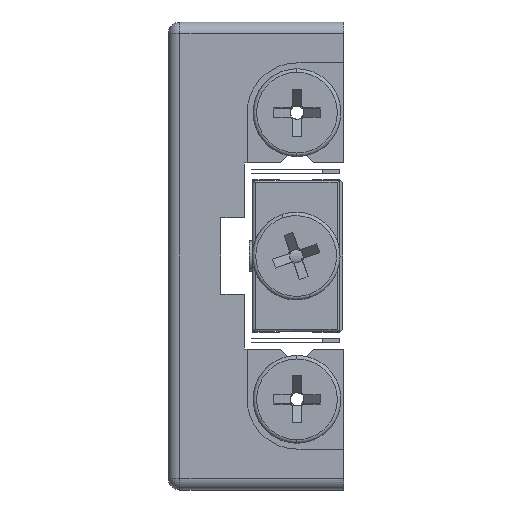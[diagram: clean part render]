
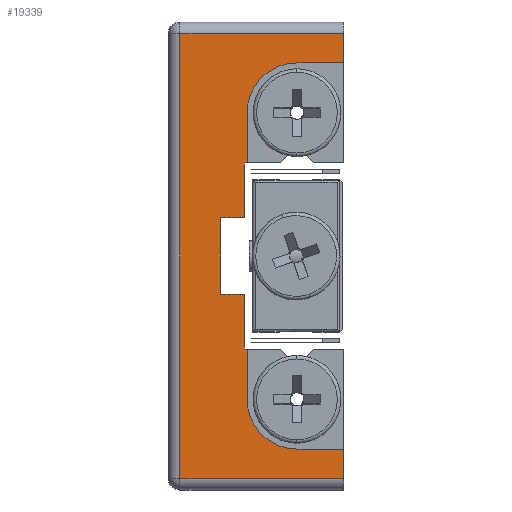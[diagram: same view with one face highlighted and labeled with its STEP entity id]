
A CAD part, left-side view. The second image highlights one B-rep face of the part: STEP entity #19339.
In plain terms, the highlighted planar face has unit normal (-1, 0, 0).
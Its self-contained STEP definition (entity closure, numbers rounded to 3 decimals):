
#500 = CARTESIAN_POINT ( 'NONE',  ( -36.238, 14.049, -19. ) ) ;
#577 = ORIENTED_EDGE ( 'NONE', *, *, #6796, .T. ) ;
#611 = ORIENTED_EDGE ( 'NONE', *, *, #8609, .T. ) ;
#644 = LINE ( 'NONE', #19536, #2229 ) ;
#1018 = DIRECTION ( 'NONE',  ( 0., 0., -1. ) ) ;
#1064 = DIRECTION ( 'NONE',  ( 0., 1., 0. ) ) ;
#1193 = EDGE_CURVE ( 'NONE', #10872, #4948, #19214, .T. ) ;
#1201 = CARTESIAN_POINT ( 'NONE',  ( -36.238, 4.049, 12.25 ) ) ;
#1435 = LINE ( 'NONE', #7150, #18031 ) ;
#1503 = CARTESIAN_POINT ( 'NONE',  ( -36.238, 8.549, 7.95 ) ) ;
#1530 = ORIENTED_EDGE ( 'NONE', *, *, #8042, .T. ) ;
#1706 = LINE ( 'NONE', #6844, #10751 ) ;
#1872 = ORIENTED_EDGE ( 'NONE', *, *, #1948, .T. ) ;
#1948 = EDGE_CURVE ( 'NONE', #12854, #5930, #4648, .T. ) ;
#1973 = DIRECTION ( 'NONE',  ( 0., 1., 0. ) ) ;
#2036 = ORIENTED_EDGE ( 'NONE', *, *, #5529, .F. ) ;
#2042 = CARTESIAN_POINT ( 'NONE',  ( -36.238, 10.549, 3.25 ) ) ;
#2130 = ORIENTED_EDGE ( 'NONE', *, *, #3409, .F. ) ;
#2197 = CARTESIAN_POINT ( 'NONE',  ( -36.238, 8.299, 12.25 ) ) ;
#2229 = VECTOR ( 'NONE', #19377, 1000. ) ;
#2335 = ORIENTED_EDGE ( 'NONE', *, *, #8061, .T. ) ;
#2415 = CARTESIAN_POINT ( 'NONE',  ( -36.238, 10.549, -3.25 ) ) ;
#2875 = VERTEX_POINT ( 'NONE', #8707 ) ;
#2897 = CARTESIAN_POINT ( 'NONE',  ( -36.238, 14.049, -20. ) ) ;
#3122 = CARTESIAN_POINT ( 'NONE',  ( -36.238, 8.299, 7.95 ) ) ;
#3185 = EDGE_CURVE ( 'NONE', #8872, #10872, #14250, .T. ) ;
#3409 = EDGE_CURVE ( 'NONE', #4948, #15752, #16950, .T. ) ;
#3416 = CARTESIAN_POINT ( 'NONE',  ( -36.238, 10.549, 3.25 ) ) ;
#3782 = DIRECTION ( 'NONE',  ( 1., 0., 0. ) ) ;
#3836 = ORIENTED_EDGE ( 'NONE', *, *, #16086, .T. ) ;
#3885 = CARTESIAN_POINT ( 'NONE',  ( -36.238, 8.549, -3.25 ) ) ;
#4145 = AXIS2_PLACEMENT_3D ( 'NONE', #9370, #11208, #1018 ) ;
#4229 = CARTESIAN_POINT ( 'NONE',  ( -36.238, 8.549, -7.95 ) ) ;
#4251 = DIRECTION ( 'NONE',  ( 0., 0., -1. ) ) ;
#4571 = VERTEX_POINT ( 'NONE', #14424 ) ;
#4648 = LINE ( 'NONE', #9272, #7007 ) ;
#4948 = VERTEX_POINT ( 'NONE', #4964 ) ;
#4964 = CARTESIAN_POINT ( 'NONE',  ( -36.238, 8.549, 3.25 ) ) ;
#5215 = LINE ( 'NONE', #19604, #5783 ) ;
#5257 = ORIENTED_EDGE ( 'NONE', *, *, #1193, .F. ) ;
#5432 = EDGE_LOOP ( 'NONE', ( #21836, #1530, #2335, #577, #8103, #11588, #17294, #2036, #15146, #13009, #2130, #5257, #18443, #3836, #611, #7096, #1872, #13582 ) ) ;
#5480 = DIRECTION ( 'NONE',  ( 0., 0., -1. ) ) ;
#5529 = EDGE_CURVE ( 'NONE', #19436, #7841, #13948, .T. ) ;
#5783 = VECTOR ( 'NONE', #14589, 1000. ) ;
#5930 = VERTEX_POINT ( 'NONE', #12627 ) ;
#6536 = DIRECTION ( 'NONE',  ( 0., 0., 1. ) ) ;
#6669 = VERTEX_POINT ( 'NONE', #17530 ) ;
#6683 = VECTOR ( 'NONE', #21060, 1000. ) ;
#6753 = DIRECTION ( 'NONE',  ( 0., -1., 0. ) ) ;
#6796 = EDGE_CURVE ( 'NONE', #15192, #18995, #644, .T. ) ;
#6844 = CARTESIAN_POINT ( 'NONE',  ( -36.238, 0.049, -7.95 ) ) ;
#7007 = VECTOR ( 'NONE', #9550, 1000. ) ;
#7096 = ORIENTED_EDGE ( 'NONE', *, *, #7652, .T. ) ;
#7103 = CIRCLE ( 'NONE', #21945, 4.25 ) ;
#7150 = CARTESIAN_POINT ( 'NONE',  ( -36.238, 8.299, 12.25 ) ) ;
#7638 = EDGE_CURVE ( 'NONE', #18995, #6669, #15356, .T. ) ;
#7652 = EDGE_CURVE ( 'NONE', #12929, #12854, #15066, .T. ) ;
#7841 = VERTEX_POINT ( 'NONE', #15968 ) ;
#8042 = EDGE_CURVE ( 'NONE', #14746, #2875, #21551, .T. ) ;
#8061 = EDGE_CURVE ( 'NONE', #2875, #15192, #18665, .T. ) ;
#8103 = ORIENTED_EDGE ( 'NONE', *, *, #7638, .T. ) ;
#8609 = EDGE_CURVE ( 'NONE', #19213, #12929, #7103, .T. ) ;
#8707 = CARTESIAN_POINT ( 'NONE',  ( -36.238, 0.049, -19. ) ) ;
#8791 = CARTESIAN_POINT ( 'NONE',  ( -36.238, 8.549, 7.95 ) ) ;
#8872 = VERTEX_POINT ( 'NONE', #3122 ) ;
#9272 = CARTESIAN_POINT ( 'NONE',  ( -36.238, 0.049, -20. ) ) ;
#9370 = CARTESIAN_POINT ( 'NONE',  ( -36.238, 15.049, -20. ) ) ;
#9409 = CARTESIAN_POINT ( 'NONE',  ( -36.238, 4.049, 16.5 ) ) ;
#9492 = DIRECTION ( 'NONE',  ( 0., -1., 0. ) ) ;
#9550 = DIRECTION ( 'NONE',  ( 0., 0., 1. ) ) ;
#9947 = DIRECTION ( 'NONE',  ( 0., 0., 1. ) ) ;
#10031 = DIRECTION ( 'NONE',  ( 1., 0., 0. ) ) ;
#10117 = CARTESIAN_POINT ( 'NONE',  ( -36.238, 4.049, -12.25 ) ) ;
#10686 = DIRECTION ( 'NONE',  ( 0., 0., -1. ) ) ;
#10751 = VECTOR ( 'NONE', #6753, 1000. ) ;
#10872 = VERTEX_POINT ( 'NONE', #8791 ) ;
#11208 = DIRECTION ( 'NONE',  ( 1., 0., 0. ) ) ;
#11388 = FACE_OUTER_BOUND ( 'NONE', #5432, .T. ) ;
#11573 = CARTESIAN_POINT ( 'NONE',  ( -36.238, 8.299, -12.25 ) ) ;
#11588 = ORIENTED_EDGE ( 'NONE', *, *, #13611, .T. ) ;
#11819 = DIRECTION ( 'NONE',  ( 0., 0., 1. ) ) ;
#11924 = DIRECTION ( 'NONE',  ( 0., 1., 0. ) ) ;
#12367 = CARTESIAN_POINT ( 'NONE',  ( -36.238, 15.049, 19. ) ) ;
#12542 = LINE ( 'NONE', #12367, #13362 ) ;
#12625 = VECTOR ( 'NONE', #4251, 1000. ) ;
#12627 = CARTESIAN_POINT ( 'NONE',  ( -36.238, 0.049, 19. ) ) ;
#12854 = VERTEX_POINT ( 'NONE', #15152 ) ;
#12929 = VERTEX_POINT ( 'NONE', #13600 ) ;
#13009 = ORIENTED_EDGE ( 'NONE', *, *, #19872, .F. ) ;
#13362 = VECTOR ( 'NONE', #11924, 1000. ) ;
#13582 = ORIENTED_EDGE ( 'NONE', *, *, #15396, .T. ) ;
#13600 = CARTESIAN_POINT ( 'NONE',  ( -36.238, 4.049, 16.5 ) ) ;
#13611 = EDGE_CURVE ( 'NONE', #6669, #4571, #15326, .T. ) ;
#13948 = LINE ( 'NONE', #4229, #12625 ) ;
#13986 = LINE ( 'NONE', #2897, #14208 ) ;
#14136 = DIRECTION ( 'NONE',  ( 0., -1., 0. ) ) ;
#14208 = VECTOR ( 'NONE', #10686, 1000. ) ;
#14250 = LINE ( 'NONE', #1503, #14574 ) ;
#14424 = CARTESIAN_POINT ( 'NONE',  ( -36.238, 8.299, -7.95 ) ) ;
#14425 = VERTEX_POINT ( 'NONE', #2415 ) ;
#14574 = VECTOR ( 'NONE', #1064, 1000. ) ;
#14589 = DIRECTION ( 'NONE',  ( 0., 0., -1. ) ) ;
#14746 = VERTEX_POINT ( 'NONE', #500 ) ;
#14850 = CARTESIAN_POINT ( 'NONE',  ( -36.238, 8.549, -3.25 ) ) ;
#15066 = LINE ( 'NONE', #9409, #15542 ) ;
#15146 = ORIENTED_EDGE ( 'NONE', *, *, #20626, .F. ) ;
#15152 = CARTESIAN_POINT ( 'NONE',  ( -36.238, 0.049, 16.5 ) ) ;
#15176 = VERTEX_POINT ( 'NONE', #15440 ) ;
#15192 = VERTEX_POINT ( 'NONE', #15269 ) ;
#15269 = CARTESIAN_POINT ( 'NONE',  ( -36.238, 0.049, -16.5 ) ) ;
#15326 = LINE ( 'NONE', #11573, #15368 ) ;
#15356 = CIRCLE ( 'NONE', #20515, 4.25 ) ;
#15368 = VECTOR ( 'NONE', #11819, 1000. ) ;
#15396 = EDGE_CURVE ( 'NONE', #5930, #15176, #12542, .T. ) ;
#15440 = CARTESIAN_POINT ( 'NONE',  ( -36.238, 14.049, 19. ) ) ;
#15542 = VECTOR ( 'NONE', #9492, 1000. ) ;
#15752 = VERTEX_POINT ( 'NONE', #3416 ) ;
#15968 = CARTESIAN_POINT ( 'NONE',  ( -36.238, 8.549, -7.95 ) ) ;
#16086 = EDGE_CURVE ( 'NONE', #8872, #19213, #1435, .T. ) ;
#16844 = VECTOR ( 'NONE', #17205, 1000. ) ;
#16945 = EDGE_CURVE ( 'NONE', #15176, #14746, #13986, .T. ) ;
#16950 = LINE ( 'NONE', #2042, #17281 ) ;
#17205 = DIRECTION ( 'NONE',  ( 0., 0., 1. ) ) ;
#17281 = VECTOR ( 'NONE', #1973, 1000. ) ;
#17294 = ORIENTED_EDGE ( 'NONE', *, *, #17623, .F. ) ;
#17530 = CARTESIAN_POINT ( 'NONE',  ( -36.238, 8.299, -12.25 ) ) ;
#17623 = EDGE_CURVE ( 'NONE', #7841, #4571, #1706, .T. ) ;
#17677 = DIRECTION ( 'NONE',  ( 0., -1., 0. ) ) ;
#17901 = VECTOR ( 'NONE', #17677, 1000. ) ;
#18031 = VECTOR ( 'NONE', #6536, 1000. ) ;
#18183 = CARTESIAN_POINT ( 'NONE',  ( -36.238, 15.049, -19. ) ) ;
#18443 = ORIENTED_EDGE ( 'NONE', *, *, #3185, .F. ) ;
#18665 = LINE ( 'NONE', #19080, #16844 ) ;
#18995 = VERTEX_POINT ( 'NONE', #20180 ) ;
#19080 = CARTESIAN_POINT ( 'NONE',  ( -36.238, 0.049, -20. ) ) ;
#19213 = VERTEX_POINT ( 'NONE', #2197 ) ;
#19214 = LINE ( 'NONE', #21035, #6683 ) ;
#19339 = ADVANCED_FACE ( 'NONE', ( #11388 ), #21381, .F. ) ;
#19377 = DIRECTION ( 'NONE',  ( 0., 1., 0. ) ) ;
#19436 = VERTEX_POINT ( 'NONE', #14850 ) ;
#19536 = CARTESIAN_POINT ( 'NONE',  ( -36.238, 4.049, -16.5 ) ) ;
#19604 = CARTESIAN_POINT ( 'NONE',  ( -36.238, 10.549, -3.25 ) ) ;
#19872 = EDGE_CURVE ( 'NONE', #15752, #14425, #5215, .T. ) ;
#20180 = CARTESIAN_POINT ( 'NONE',  ( -36.238, 4.049, -16.5 ) ) ;
#20515 = AXIS2_PLACEMENT_3D ( 'NONE', #10117, #10031, #9947 ) ;
#20626 = EDGE_CURVE ( 'NONE', #14425, #19436, #21523, .T. ) ;
#21035 = CARTESIAN_POINT ( 'NONE',  ( -36.238, 8.549, 3.25 ) ) ;
#21060 = DIRECTION ( 'NONE',  ( 0., 0., -1. ) ) ;
#21270 = VECTOR ( 'NONE', #14136, 1000. ) ;
#21381 = PLANE ( 'NONE',  #4145 ) ;
#21523 = LINE ( 'NONE', #3885, #21270 ) ;
#21551 = LINE ( 'NONE', #18183, #17901 ) ;
#21836 = ORIENTED_EDGE ( 'NONE', *, *, #16945, .T. ) ;
#21945 = AXIS2_PLACEMENT_3D ( 'NONE', #1201, #3782, #5480 ) ;
